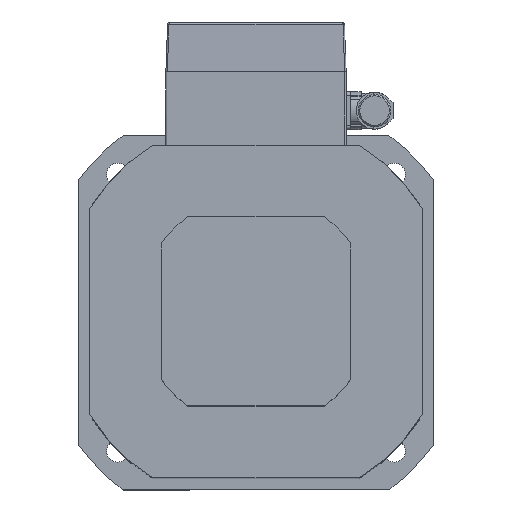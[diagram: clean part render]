
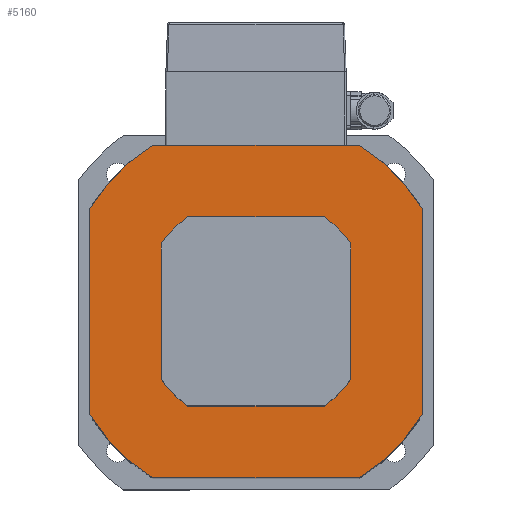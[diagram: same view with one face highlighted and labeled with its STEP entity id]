
A CAD part, top view. The second image highlights one B-rep face of the part: STEP entity #5160.
In plain terms, the highlighted planar face has unit normal (0, 0, 1).
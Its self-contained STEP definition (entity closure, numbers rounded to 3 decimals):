
#1083=PLANE('',#5443);
#1211=VECTOR('',#5976,1.);
#1215=VECTOR('',#5987,1.);
#1219=VECTOR('',#5998,1.);
#1221=VECTOR('',#6001,1.);
#1528=LINE('',#7230,#1211);
#1532=LINE('',#7242,#1215);
#1536=LINE('',#7254,#1219);
#1538=LINE('',#7258,#1221);
#1843=VERTEX_POINT('',#7221);
#1844=VERTEX_POINT('',#7223);
#1846=VERTEX_POINT('',#7229);
#1848=VERTEX_POINT('',#7235);
#1850=VERTEX_POINT('',#7241);
#1852=VERTEX_POINT('',#7247);
#1854=VERTEX_POINT('',#7253);
#1856=VERTEX_POINT('',#7259);
#2289=CIRCLE('',#5428,132.5);
#2291=CIRCLE('',#5432,132.5);
#2293=CIRCLE('',#5436,132.5);
#2295=CIRCLE('',#5442,132.5);
#2506=EDGE_CURVE('',#1844,#1843,#2289,.T.);
#2510=EDGE_CURVE('',#1843,#1846,#1528,.T.);
#2513=EDGE_CURVE('',#1846,#1848,#2291,.T.);
#2516=EDGE_CURVE('',#1848,#1850,#1532,.T.);
#2519=EDGE_CURVE('',#1850,#1852,#2293,.T.);
#2522=EDGE_CURVE('',#1852,#1854,#1536,.T.);
#2524=EDGE_CURVE('',#1856,#1844,#1538,.T.);
#2527=EDGE_CURVE('',#1854,#1856,#2295,.T.);
#3193=ORIENTED_EDGE('',*,*,#2522,.T.);
#3194=ORIENTED_EDGE('',*,*,#2527,.T.);
#3195=ORIENTED_EDGE('',*,*,#2524,.T.);
#3196=ORIENTED_EDGE('',*,*,#2506,.T.);
#3197=ORIENTED_EDGE('',*,*,#2510,.T.);
#3198=ORIENTED_EDGE('',*,*,#2513,.T.);
#3199=ORIENTED_EDGE('',*,*,#2516,.T.);
#3200=ORIENTED_EDGE('',*,*,#2519,.T.);
#4460=EDGE_LOOP('',(#3193,#3194,#3195,#3196,#3197,#3198,#3199,#3200));
#4810=FACE_BOUND('',#4460,.T.);
#5160=ADVANCED_FACE('',(#4810),#1083,.T.);
#5428=AXIS2_PLACEMENT_3D('',#7222,#5970,#5971);
#5432=AXIS2_PLACEMENT_3D('',#7236,#5982,#5983);
#5436=AXIS2_PLACEMENT_3D('',#7248,#5993,#5994);
#5442=AXIS2_PLACEMENT_3D('',#7264,#6008,#6009);
#5443=AXIS2_PLACEMENT_3D('',#7265,#6010,$);
#5970=DIRECTION('',(0.,0.,1.));
#5971=DIRECTION('',(132.5,0.,0.));
#5976=DIRECTION('',(1.,0.,0.));
#5982=DIRECTION('',(0.,0.,1.));
#5983=DIRECTION('',(132.5,0.,0.));
#5987=DIRECTION('',(0.,1.,0.));
#5993=DIRECTION('',(0.,0.,1.));
#5994=DIRECTION('',(132.5,0.,0.));
#5998=DIRECTION('',(-1.,0.,0.));
#6001=DIRECTION('',(0.,-1.,0.));
#6008=DIRECTION('',(0.,0.,1.));
#6009=DIRECTION('',(132.5,0.,0.));
#6010=DIRECTION('',(0.,0.,1.));
#7221=CARTESIAN_POINT('',(-70.,-112.5,0.));
#7222=CARTESIAN_POINT('',(0.,0.,0.));
#7223=CARTESIAN_POINT('',(-112.5,-70.,0.));
#7229=CARTESIAN_POINT('',(70.,-112.5,0.));
#7230=CARTESIAN_POINT('',(-70.,-112.5,0.));
#7235=CARTESIAN_POINT('',(112.5,-70.,0.));
#7236=CARTESIAN_POINT('',(0.,0.,0.));
#7241=CARTESIAN_POINT('',(112.5,70.,0.));
#7242=CARTESIAN_POINT('',(112.5,-70.,0.));
#7247=CARTESIAN_POINT('',(70.,112.5,0.));
#7248=CARTESIAN_POINT('',(0.,0.,0.));
#7253=CARTESIAN_POINT('',(-70.,112.5,0.));
#7254=CARTESIAN_POINT('',(70.,112.5,0.));
#7258=CARTESIAN_POINT('',(-112.5,70.,0.));
#7259=CARTESIAN_POINT('',(-112.5,70.,0.));
#7264=CARTESIAN_POINT('',(0.,0.,0.));
#7265=CARTESIAN_POINT('',(0.,0.,0.));
